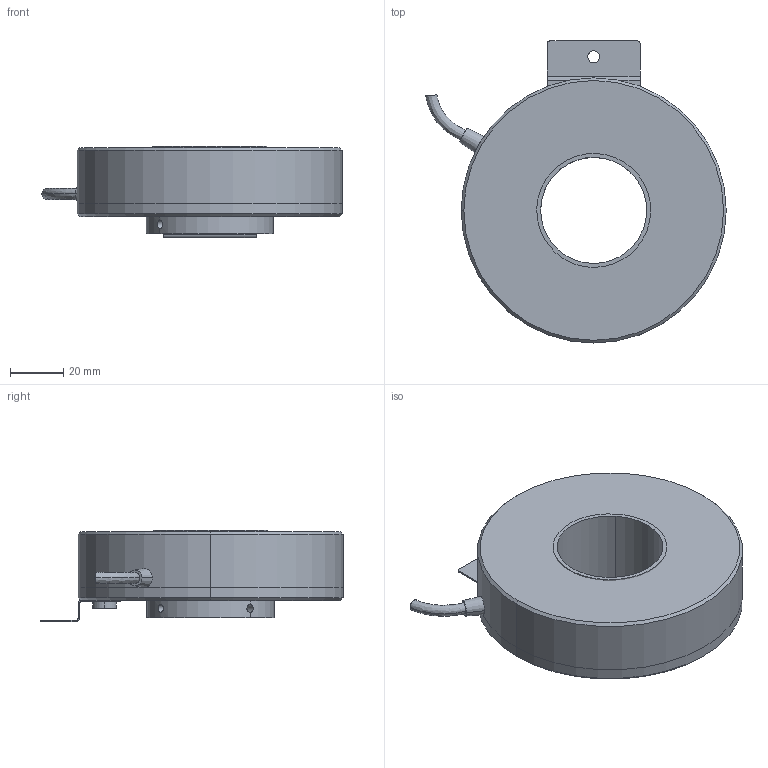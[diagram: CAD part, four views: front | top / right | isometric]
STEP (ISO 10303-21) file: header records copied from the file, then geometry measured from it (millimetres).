
FILE_DESCRIPTION (( 'STEP AP214' ), '1' );
FILE_NAME ('NB_Assem2.STEP', '2024-08-20T00:24:14', ( '' ), ( '' ), 'SwSTEP 2.0', 'SolidWorks 2023', '' );
FILE_SCHEMA (( 'AUTOMOTIVE_DESIGN' ));
Length unit declared in the file: millimetre
Products named in the file (8): NB_Assem2; NB_Part3; Flat Head SCREW M4 X6 MM; NB_フランジ; NB_Part1; 座金A M4_2.4mm厚; NB_Assem1; NB_Part2
Assembly tree (9 placements, depth 3):
  NB_Assem2
    NB_Assem1
      NB_Part1
      NB_Part2
      NB_Part3
    NB_フランジ
    座金A M4_2.4mm厚  x2
    Flat Head SCREW M4 X6 MM  x2
Bounding box: 113.36 x 114 x 34.5 mm (x, y, z)
Volume: 177393.3 mm3; surface area: 51330.3 mm2
Topology: 9 solids, 9 shells, 145 faces, 354 edges, 232 vertices
Faces by surface type: cylinder 68, plane 49, cone 18, bspline 10
Entity records: 4097 total; most frequent: CARTESIAN_POINT 1007, DIRECTION 642, ORIENTED_EDGE 552, EDGE_CURVE 276, AXIS2_PLACEMENT_3D 253, VERTEX_POINT 178, EDGE_LOOP 148, LINE 136
